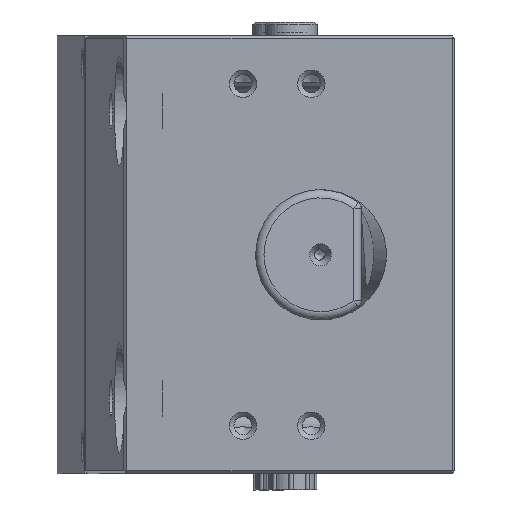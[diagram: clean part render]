
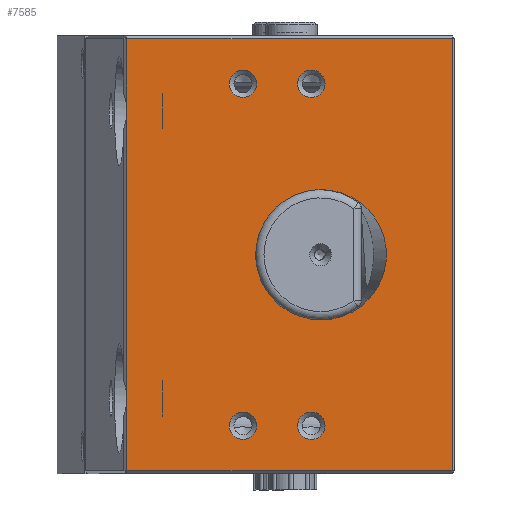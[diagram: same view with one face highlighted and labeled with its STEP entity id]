
A CAD part, left-side view. The second image highlights one B-rep face of the part: STEP entity #7585.
In plain terms, the highlighted planar face has unit normal (-1, 0, 0).
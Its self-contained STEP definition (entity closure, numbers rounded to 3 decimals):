
#344=CARTESIAN_POINT('',(0.,70.979,79.0));
#345=VERTEX_POINT('',#344);
#6934=CARTESIAN_POINT('',(0.,28.55,-57.5));
#6935=VERTEX_POINT('',#6934);
#6936=CARTESIAN_POINT('',(0.,28.55,-62.5));
#6937=DIRECTION('',(1.0,0.0,0.0));
#6938=DIRECTION('',(0.0,0.0,1.0));
#6939=AXIS2_PLACEMENT_3D('',#6936,#6937,#6938);
#6940=CIRCLE('',#6939,5.0);
#6941=EDGE_CURVE('',#6935,#6935,#6940,.T.);
#7021=CARTESIAN_POINT('',(0.,28.55,67.5));
#7022=VERTEX_POINT('',#7021);
#7023=CARTESIAN_POINT('',(0.,28.55,62.5));
#7024=DIRECTION('',(1.0,0.0,0.0));
#7025=DIRECTION('',(0.0,0.0,1.0));
#7026=AXIS2_PLACEMENT_3D('',#7023,#7024,#7025);
#7027=CIRCLE('',#7026,5.0);
#7028=EDGE_CURVE('',#7022,#7022,#7027,.T.);
#7109=CARTESIAN_POINT('',(0.,3.55,-57.5));
#7110=VERTEX_POINT('',#7109);
#7111=CARTESIAN_POINT('',(0.,3.55,-62.5));
#7112=DIRECTION('',(1.0,0.0,0.0));
#7113=DIRECTION('',(0.0,0.0,1.0));
#7114=AXIS2_PLACEMENT_3D('',#7111,#7112,#7113);
#7115=CIRCLE('',#7114,5.0);
#7116=EDGE_CURVE('',#7110,#7110,#7115,.T.);
#7196=CARTESIAN_POINT('',(0.,3.55,67.5));
#7197=VERTEX_POINT('',#7196);
#7198=CARTESIAN_POINT('',(0.,3.55,62.5));
#7199=DIRECTION('',(1.0,0.0,0.0));
#7200=DIRECTION('',(0.0,0.0,1.0));
#7201=AXIS2_PLACEMENT_3D('',#7198,#7199,#7200);
#7202=CIRCLE('',#7201,5.0);
#7203=EDGE_CURVE('',#7197,#7197,#7202,.T.);
#7236=CARTESIAN_POINT('',(0.,23.906,0.));
#7237=VERTEX_POINT('',#7236);
#7238=CARTESIAN_POINT('',(0.0,0.,0.0));
#7239=DIRECTION('',(1.0,0.0,0.0));
#7240=DIRECTION('',(0.0,-1.0,0.0));
#7241=AXIS2_PLACEMENT_3D('',#7238,#7239,#7240);
#7242=ELLIPSE('',#7241,23.906,23.815);
#7243=EDGE_CURVE('',#7237,#7237,#7242,.T.);
#7489=CARTESIAN_POINT('',(0.,-48.95,0.0));
#7490=DIRECTION('',(-1.0,0.0,0.0));
#7491=DIRECTION('',(0.0,0.0,1.0));
#7492=AXIS2_PLACEMENT_3D('',#7489,#7490,#7491);
#7493=PLANE('',#7492);
#7494=CARTESIAN_POINT('',(0.,70.979,-79.0));
#7495=VERTEX_POINT('',#7494);
#7496=CARTESIAN_POINT('',(0.,70.979,-52.5));
#7497=VERTEX_POINT('',#7496);
#7498=CARTESIAN_POINT('',(0.,70.979,-79.0));
#7499=DIRECTION('',(0.0,0.0,1.0));
#7500=VECTOR('',#7499,26.5);
#7501=LINE('',#7498,#7500);
#7502=EDGE_CURVE('',#7495,#7497,#7501,.T.);
#7503=ORIENTED_EDGE('',*,*,#7502,.F.);
#7504=CARTESIAN_POINT('',(0.,-47.95,-79.0));
#7505=VERTEX_POINT('',#7504);
#7506=CARTESIAN_POINT('',(0.,-47.95,-79.0));
#7507=DIRECTION('',(0.0,1.0,0.0));
#7508=VECTOR('',#7507,118.929);
#7509=LINE('',#7506,#7508);
#7510=EDGE_CURVE('',#7505,#7495,#7509,.T.);
#7511=ORIENTED_EDGE('',*,*,#7510,.F.);
#7512=CARTESIAN_POINT('',(0.,-47.95,79.0));
#7513=VERTEX_POINT('',#7512);
#7514=CARTESIAN_POINT('',(0.,-47.95,79.0));
#7515=DIRECTION('',(0.0,0.0,-1.0));
#7516=VECTOR('',#7515,158.0);
#7517=LINE('',#7514,#7516);
#7518=EDGE_CURVE('',#7513,#7505,#7517,.T.);
#7519=ORIENTED_EDGE('',*,*,#7518,.F.);
#7520=CARTESIAN_POINT('',(0.,70.979,79.0));
#7521=DIRECTION('',(0.0,-1.0,0.0));
#7522=VECTOR('',#7521,118.929);
#7523=LINE('',#7520,#7522);
#7524=EDGE_CURVE('',#345,#7513,#7523,.T.);
#7525=ORIENTED_EDGE('',*,*,#7524,.F.);
#7526=CARTESIAN_POINT('',(0.,70.979,52.5));
#7527=VERTEX_POINT('',#7526);
#7528=CARTESIAN_POINT('',(0.,70.979,52.5));
#7529=DIRECTION('',(0.0,0.0,1.0));
#7530=VECTOR('',#7529,26.5);
#7531=LINE('',#7528,#7530);
#7532=EDGE_CURVE('',#7527,#345,#7531,.T.);
#7533=ORIENTED_EDGE('',*,*,#7532,.F.);
#7534=CARTESIAN_POINT('',(0.0,58.,52.5));
#7535=VERTEX_POINT('',#7534);
#7536=CARTESIAN_POINT('',(0.,58.0,52.5));
#7537=DIRECTION('',(0.0,1.0,0.0));
#7538=VECTOR('',#7537,12.979);
#7539=LINE('',#7536,#7538);
#7540=EDGE_CURVE('',#7535,#7527,#7539,.T.);
#7541=ORIENTED_EDGE('',*,*,#7540,.F.);
#7542=CARTESIAN_POINT('',(0.,58.0,52.5));
#7543=DIRECTION('',(0.0,1.0,0.0));
#7544=VECTOR('',#7543,12.979);
#7545=LINE('',#7542,#7544);
#7546=EDGE_CURVE('',#7535,#7527,#7545,.T.);
#7547=ORIENTED_EDGE('',*,*,#7546,.T.);
#7548=CARTESIAN_POINT('',(0.,70.979,-52.5));
#7549=DIRECTION('',(0.0,0.0,1.0));
#7550=VECTOR('',#7549,105.0);
#7551=LINE('',#7548,#7550);
#7552=EDGE_CURVE('',#7497,#7527,#7551,.T.);
#7553=ORIENTED_EDGE('',*,*,#7552,.F.);
#7554=CARTESIAN_POINT('',(0.,58.,-52.5));
#7555=VERTEX_POINT('',#7554);
#7556=CARTESIAN_POINT('',(0.,58.0,-52.5));
#7557=DIRECTION('',(0.0,1.0,0.0));
#7558=VECTOR('',#7557,12.979);
#7559=LINE('',#7556,#7558);
#7560=EDGE_CURVE('',#7555,#7497,#7559,.T.);
#7561=ORIENTED_EDGE('',*,*,#7560,.F.);
#7562=CARTESIAN_POINT('',(0.,58.0,-52.5));
#7563=DIRECTION('',(0.0,1.0,0.0));
#7564=VECTOR('',#7563,12.979);
#7565=LINE('',#7562,#7564);
#7566=EDGE_CURVE('',#7555,#7497,#7565,.T.);
#7567=ORIENTED_EDGE('',*,*,#7566,.T.);
#7568=EDGE_LOOP('',(#7503,#7511,#7519,#7525,#7533,#7541,#7547,#7553,#7561,#7567));
#7569=FACE_OUTER_BOUND('',#7568,.T.);
#7570=ORIENTED_EDGE('',*,*,#7243,.T.);
#7571=EDGE_LOOP('',(#7570));
#7572=FACE_BOUND('',#7571,.T.);
#7573=ORIENTED_EDGE('',*,*,#6941,.T.);
#7574=EDGE_LOOP('',(#7573));
#7575=FACE_BOUND('',#7574,.T.);
#7576=ORIENTED_EDGE('',*,*,#7028,.T.);
#7577=EDGE_LOOP('',(#7576));
#7578=FACE_BOUND('',#7577,.T.);
#7579=ORIENTED_EDGE('',*,*,#7116,.T.);
#7580=EDGE_LOOP('',(#7579));
#7581=FACE_BOUND('',#7580,.T.);
#7582=ORIENTED_EDGE('',*,*,#7203,.T.);
#7583=EDGE_LOOP('',(#7582));
#7584=FACE_BOUND('',#7583,.T.);
#7585=ADVANCED_FACE('',(#7569,#7572,#7575,#7578,#7581,#7584),#7493,.T.);
